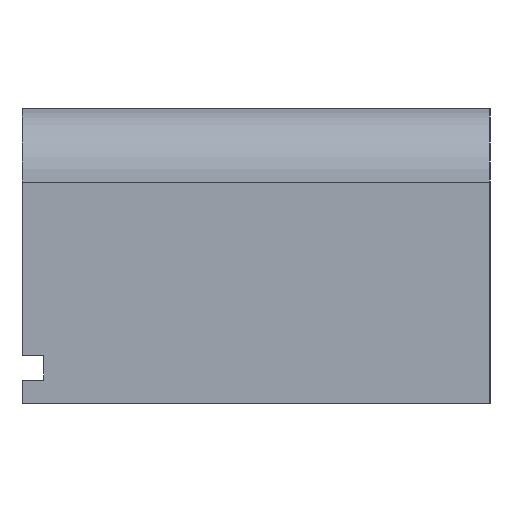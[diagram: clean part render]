
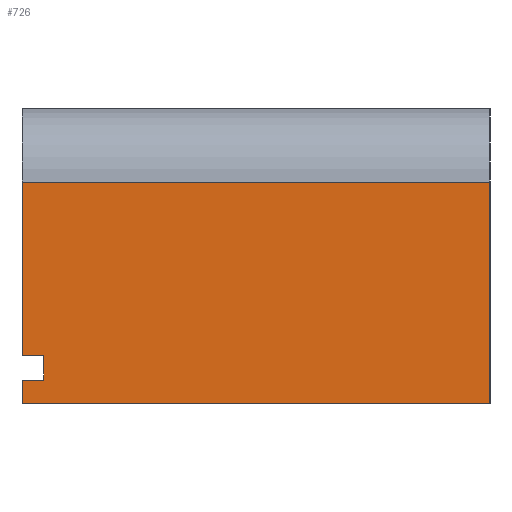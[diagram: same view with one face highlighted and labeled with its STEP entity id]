
A CAD part, left-side view. The second image highlights one B-rep face of the part: STEP entity #726.
In plain terms, the highlighted planar face has unit normal (-1, 0, 0).
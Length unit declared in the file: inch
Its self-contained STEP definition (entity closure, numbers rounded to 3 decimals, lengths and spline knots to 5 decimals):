
#5 = EDGE_CURVE ( 'NONE', #956, #441, #939, .T. ) ;
#9 = LINE ( 'NONE', #50, #199 ) ;
#33 = LINE ( 'NONE', #742, #532 ) ;
#38 = EDGE_CURVE ( 'NONE', #1050, #699, #523, .T. ) ;
#47 = VECTOR ( 'NONE', #71, 39.37008 ) ;
#50 = CARTESIAN_POINT ( 'NONE',  ( -1.25236, 1.1325, -0.34094 ) ) ;
#57 = DIRECTION ( 'NONE',  ( 0., 1., 0. ) ) ;
#59 = VERTEX_POINT ( 'NONE', #924 ) ;
#63 = DIRECTION ( 'NONE',  ( 0., 1., 0. ) ) ;
#71 = DIRECTION ( 'NONE',  ( 0., 0., 1. ) ) ;
#94 = VECTOR ( 'NONE', #203, 39.37008 ) ;
#98 = EDGE_CURVE ( 'NONE', #59, #921, #538, .T. ) ;
#99 = CARTESIAN_POINT ( 'NONE',  ( -1.25236, 1.1875, -0.40344 ) ) ;
#104 = PLANE ( 'NONE',  #811 ) ;
#114 = CARTESIAN_POINT ( 'NONE',  ( -1.25236, 0., -0.46344 ) ) ;
#131 = DIRECTION ( 'NONE',  ( 0., 0., 1. ) ) ;
#145 = ORIENTED_EDGE ( 'NONE', *, *, #1019, .F. ) ;
#186 = CARTESIAN_POINT ( 'NONE',  ( -1.25236, 1.1875, 0.09906 ) ) ;
#193 = CARTESIAN_POINT ( 'NONE',  ( -1.25236, 1.1875, -0.46344 ) ) ;
#199 = VECTOR ( 'NONE', #57, 39.37008 ) ;
#203 = DIRECTION ( 'NONE',  ( 0., 0., 1. ) ) ;
#213 = CARTESIAN_POINT ( 'NONE',  ( -1.25236, 1.1325, -0.34094 ) ) ;
#263 = VECTOR ( 'NONE', #771, 39.37008 ) ;
#288 = CARTESIAN_POINT ( 'NONE',  ( -1.25236, 1.1875, -0.46344 ) ) ;
#309 = CARTESIAN_POINT ( 'NONE',  ( -1.25236, 1.1875, -0.46344 ) ) ;
#324 = CARTESIAN_POINT ( 'NONE',  ( -1.25236, 1.1875, -0.46344 ) ) ;
#338 = ORIENTED_EDGE ( 'NONE', *, *, #38, .F. ) ;
#425 = LINE ( 'NONE', #193, #94 ) ;
#439 = VERTEX_POINT ( 'NONE', #691 ) ;
#441 = VERTEX_POINT ( 'NONE', #651 ) ;
#462 = EDGE_CURVE ( 'NONE', #1050, #583, #33, .T. ) ;
#523 = LINE ( 'NONE', #1042, #47 ) ;
#532 = VECTOR ( 'NONE', #63, 39.37008 ) ;
#538 = LINE ( 'NONE', #186, #263 ) ;
#543 = LINE ( 'NONE', #114, #713 ) ;
#546 = DIRECTION ( 'NONE',  ( 0., -1., 0. ) ) ;
#547 = LINE ( 'NONE', #324, #768 ) ;
#582 = EDGE_CURVE ( 'NONE', #699, #439, #9, .T. ) ;
#583 = VERTEX_POINT ( 'NONE', #99 ) ;
#614 = DIRECTION ( 'NONE',  ( 0., 0., 1. ) ) ;
#621 = EDGE_CURVE ( 'NONE', #441, #59, #543, .T. ) ;
#649 = CARTESIAN_POINT ( 'NONE',  ( -1.25236, 1.1875, -0.46344 ) ) ;
#651 = CARTESIAN_POINT ( 'NONE',  ( -1.25236, 0., -0.46344 ) ) ;
#652 = CARTESIAN_POINT ( 'NONE',  ( -1.25236, 1.1325, -0.40344 ) ) ;
#673 = CARTESIAN_POINT ( 'NONE',  ( -1.25236, 1.1875, 0.09906 ) ) ;
#691 = CARTESIAN_POINT ( 'NONE',  ( -1.25236, 1.1875, -0.34094 ) ) ;
#697 = EDGE_CURVE ( 'NONE', #439, #921, #425, .T. ) ;
#699 = VERTEX_POINT ( 'NONE', #213 ) ;
#713 = VECTOR ( 'NONE', #131, 39.37008 ) ;
#726 = ADVANCED_FACE ( 'NONE', ( #931 ), #104, .F. ) ;
#742 = CARTESIAN_POINT ( 'NONE',  ( -1.25236, 1.1325, -0.40344 ) ) ;
#760 = ORIENTED_EDGE ( 'NONE', *, *, #5, .T. ) ;
#768 = VECTOR ( 'NONE', #614, 39.37008 ) ;
#771 = DIRECTION ( 'NONE',  ( 0., 1., 0. ) ) ;
#811 = AXIS2_PLACEMENT_3D ( 'NONE', #309, #948, #813 ) ;
#813 = DIRECTION ( 'NONE',  ( 0., 0., -1. ) ) ;
#823 = ORIENTED_EDGE ( 'NONE', *, *, #462, .T. ) ;
#824 = ORIENTED_EDGE ( 'NONE', *, *, #697, .F. ) ;
#834 = ORIENTED_EDGE ( 'NONE', *, *, #582, .F. ) ;
#847 = ORIENTED_EDGE ( 'NONE', *, *, #621, .T. ) ;
#851 = EDGE_LOOP ( 'NONE', ( #338, #823, #145, #760, #847, #1090, #824, #834 ) ) ;
#921 = VERTEX_POINT ( 'NONE', #673 ) ;
#924 = CARTESIAN_POINT ( 'NONE',  ( -1.25236, 0., 0.09906 ) ) ;
#931 = FACE_OUTER_BOUND ( 'NONE', #851, .T. ) ;
#939 = LINE ( 'NONE', #288, #998 ) ;
#948 = DIRECTION ( 'NONE',  ( 1., 0., 0. ) ) ;
#956 = VERTEX_POINT ( 'NONE', #649 ) ;
#998 = VECTOR ( 'NONE', #546, 39.37008 ) ;
#1019 = EDGE_CURVE ( 'NONE', #956, #583, #547, .T. ) ;
#1042 = CARTESIAN_POINT ( 'NONE',  ( -1.25236, 1.1325, -0.40344 ) ) ;
#1050 = VERTEX_POINT ( 'NONE', #652 ) ;
#1090 = ORIENTED_EDGE ( 'NONE', *, *, #98, .T. ) ;
